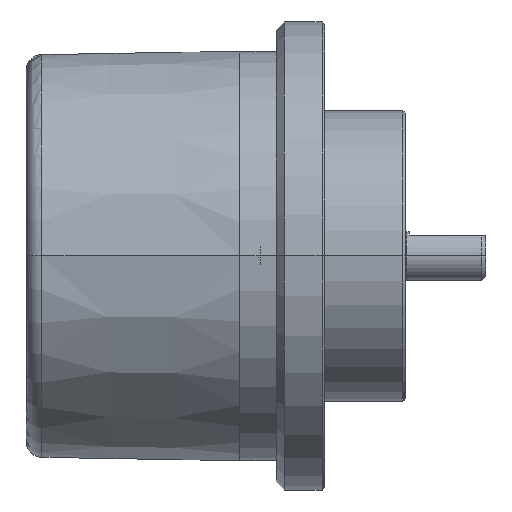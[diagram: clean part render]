
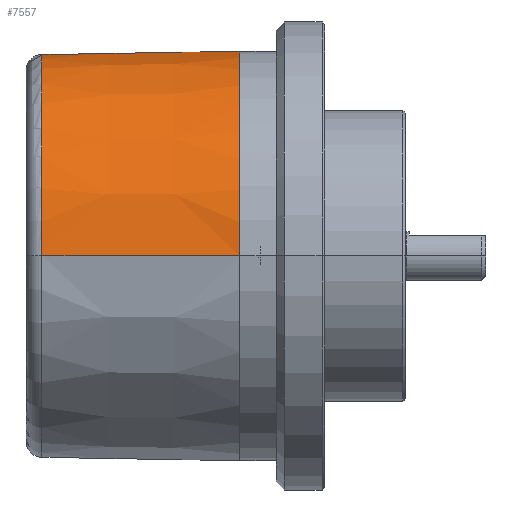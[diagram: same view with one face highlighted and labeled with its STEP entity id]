
A CAD part, top view. The second image highlights one B-rep face of the part: STEP entity #7557.
In plain terms, the highlighted conical face has half-angle 1 degrees and reference radius 25.4 mm.
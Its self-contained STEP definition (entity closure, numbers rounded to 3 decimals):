
#226 = DIRECTION ( 'NONE',  ( 1., 0., 0.017 ) ) ;
#392 = CARTESIAN_POINT ( 'NONE',  ( 5.5, 0., 25.4 ) ) ;
#512 = VERTEX_POINT ( 'NONE', #1440 ) ;
#885 = CARTESIAN_POINT ( 'NONE',  ( 5.5, 0., 25.4 ) ) ;
#1088 = ORIENTED_EDGE ( 'NONE', *, *, #7193, .T. ) ;
#1095 = ORIENTED_EDGE ( 'NONE', *, *, #3614, .T. ) ;
#1106 = ORIENTED_EDGE ( 'NONE', *, *, #4985, .T. ) ;
#1115 = ORIENTED_EDGE ( 'NONE', *, *, #3868, .T. ) ;
#1118 = ORIENTED_EDGE ( 'NONE', *, *, #5325, .T. ) ;
#1128 = ORIENTED_EDGE ( 'NONE', *, *, #7747, .T. ) ;
#1440 = CARTESIAN_POINT ( 'NONE',  ( 3.552, 16.781, -19.022 ) ) ;
#1583 = VERTEX_POINT ( 'NONE', #7011 ) ;
#1922 = AXIS2_PLACEMENT_3D ( 'NONE', #6149, #6042, #6011 ) ;
#2025 = CARTESIAN_POINT ( 'NONE',  ( -18.948, 17.138, -18.165 ) ) ;
#2378 = VERTEX_POINT ( 'NONE', #9311 ) ;
#2627 = CARTESIAN_POINT ( 'NONE',  ( -3.948, 16.895, -18.747 ) ) ;
#2996 = CARTESIAN_POINT ( 'NONE',  ( -11.448, 17.014, -18.462 ) ) ;
#3160 = CARTESIAN_POINT ( 'NONE',  ( -19.035, 17.138, -18.162 ) ) ;
#3614 = EDGE_CURVE ( 'NONE', #1583, #9782, #8744, .T. ) ;
#3868 = EDGE_CURVE ( 'NONE', #2378, #512, #9863, .T. ) ;
#4313 = CONICAL_SURFACE ( 'NONE', #7803, 25.4, 0.017 ) ;
#4409 = FACE_OUTER_BOUND ( 'NONE', #10225, .T. ) ;
#4985 = EDGE_CURVE ( 'NONE', #9782, #2378, #9151, .T. ) ;
#5085 = CIRCLE ( 'NONE', #9773, 24.972 ) ;
#5325 = EDGE_CURVE ( 'NONE', #512, #7230, #7492, .T. ) ;
#6011 = DIRECTION ( 'NONE',  ( 0., 0., -1. ) ) ;
#6012 = CARTESIAN_POINT ( 'NONE',  ( -19.035, 17.138, -18.162 ) ) ;
#6022 = CARTESIAN_POINT ( 'NONE',  ( -19.006, 17.139, -18.163 ) ) ;
#6034 = CARTESIAN_POINT ( 'NONE',  ( -18.977, 17.139, -18.163 ) ) ;
#6042 = DIRECTION ( 'NONE',  ( -1., 0., 0. ) ) ;
#6100 = CARTESIAN_POINT ( 'NONE',  ( -18.948, 17.138, -18.165 ) ) ;
#6149 = CARTESIAN_POINT ( 'NONE',  ( 5.5, 0., 0. ) ) ;
#6493 = CARTESIAN_POINT ( 'NONE',  ( -18.948, 17.138, -18.165 ) ) ;
#6916 = VERTEX_POINT ( 'NONE', #3160 ) ;
#7011 = CARTESIAN_POINT ( 'NONE',  ( -19.035, 0., 24.972 ) ) ;
#7082 = B_SPLINE_CURVE_WITH_KNOTS ( 'NONE', 3,
 ( #6100, #6034, #6022, #6012 ),
 .UNSPECIFIED., .F., .F.,
 ( 4, 4 ),
 ( 0., 0. ),
 .UNSPECIFIED. ) ;
#7193 = EDGE_CURVE ( 'NONE', #6916, #1583, #5085, .T. ) ;
#7230 = VERTEX_POINT ( 'NONE', #6493 ) ;
#7492 = B_SPLINE_CURVE_WITH_KNOTS ( 'NONE', 3,
 ( #7575, #2627, #2996, #2025 ),
 .UNSPECIFIED., .F., .F.,
 ( 4, 4 ),
 ( 0., 0.023 ),
 .UNSPECIFIED. ) ;
#7557 = ADVANCED_FACE ( 'NONE', ( #4409 ), #4313, .T. ) ;
#7575 = CARTESIAN_POINT ( 'NONE',  ( 3.552, 16.781, -19.022 ) ) ;
#7747 = EDGE_CURVE ( 'NONE', #7230, #6916, #7082, .T. ) ;
#7803 = AXIS2_PLACEMENT_3D ( 'NONE', #8137, #8144, #8299 ) ;
#7925 = DIRECTION ( 'NONE',  ( 0., 0., -1. ) ) ;
#8137 = CARTESIAN_POINT ( 'NONE',  ( 5.5, 0., 0. ) ) ;
#8144 = DIRECTION ( 'NONE',  ( 1., 0., 0. ) ) ;
#8229 = DIRECTION ( 'NONE',  ( 1., 0., 0. ) ) ;
#8287 = CARTESIAN_POINT ( 'NONE',  ( -19.035, 0., 0. ) ) ;
#8299 = DIRECTION ( 'NONE',  ( 0., 0., 1. ) ) ;
#8744 = LINE ( 'NONE', #885, #8929 ) ;
#8929 = VECTOR ( 'NONE', #226, 1000. ) ;
#9080 = CARTESIAN_POINT ( 'NONE',  ( 3.552, 16.781, -19.022 ) ) ;
#9099 = CARTESIAN_POINT ( 'NONE',  ( 3.921, 16.775, -19.036 ) ) ;
#9122 = CARTESIAN_POINT ( 'NONE',  ( 4.279, 16.699, -19.111 ) ) ;
#9151 = CIRCLE ( 'NONE', #1922, 25.4 ) ;
#9190 = CARTESIAN_POINT ( 'NONE',  ( 4.767, 16.519, -19.278 ) ) ;
#9226 = CARTESIAN_POINT ( 'NONE',  ( 4.924, 16.447, -19.343 ) ) ;
#9311 = CARTESIAN_POINT ( 'NONE',  ( 5.5, 16.106, -19.64 ) ) ;
#9313 = CARTESIAN_POINT ( 'NONE',  ( 5.222, 16.288, -19.484 ) ) ;
#9342 = CARTESIAN_POINT ( 'NONE',  ( 5.364, 16.2, -19.56 ) ) ;
#9382 = CARTESIAN_POINT ( 'NONE',  ( 5.5, 16.106, -19.64 ) ) ;
#9773 = AXIS2_PLACEMENT_3D ( 'NONE', #8287, #8229, #7925 ) ;
#9782 = VERTEX_POINT ( 'NONE', #392 ) ;
#9863 = B_SPLINE_CURVE_WITH_KNOTS ( 'NONE', 3,
 ( #9382, #9342, #9313, #9226, #9190, #9122, #9099, #9080 ),
 .UNSPECIFIED., .F., .F.,
 ( 4, 2, 2, 4 ),
 ( 0., 0.001, 0.001, 0.002 ),
 .UNSPECIFIED. ) ;
#10225 = EDGE_LOOP ( 'NONE', ( #1088, #1095, #1106, #1115, #1118, #1128 ) ) ;
